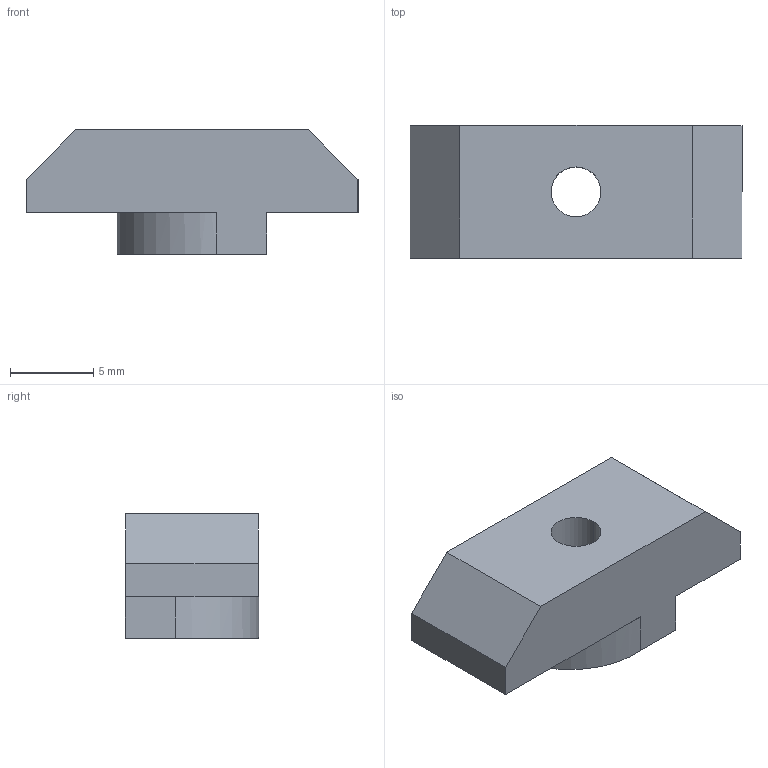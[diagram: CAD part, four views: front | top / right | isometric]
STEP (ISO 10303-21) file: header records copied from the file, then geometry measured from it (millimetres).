
FILE_DESCRIPTION (( 'STEP AP203' ), '1' );
FILE_NAME ('5009.STEP', '2016-04-16T11:39:58', ( '' ), ( '' ), 'SwSTEP 2.0', 'SolidWorks 2014', '' );
FILE_SCHEMA (( 'CONFIG_CONTROL_DESIGN' ));
Length unit declared in the file: millimetre
Products named in the file (1): 5009
Bounding box: 20 x 8.04 x 7.5 mm (x, y, z)
Volume: 823.6 mm3; surface area: 683.9 mm2
Topology: 1 solids, 1 shells, 18 faces, 46 edges, 30 vertices
Faces by surface type: plane 14, cylinder 4
Entity records: 625 total; most frequent: CARTESIAN_POINT 95, DIRECTION 94, ORIENTED_EDGE 92, EDGE_CURVE 46, LINE 36, VECTOR 36, VERTEX_POINT 30, AXIS2_PLACEMENT_3D 29
